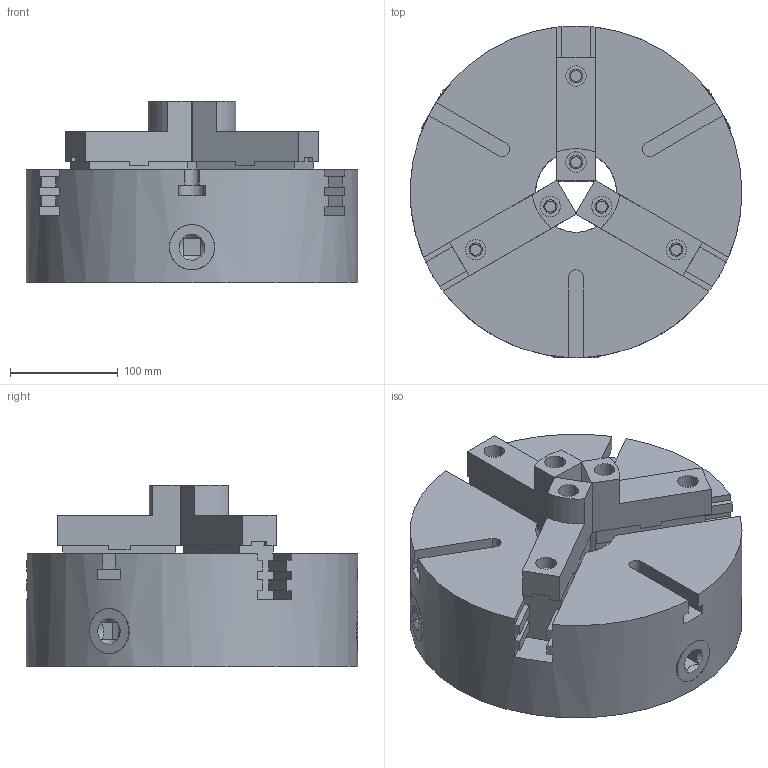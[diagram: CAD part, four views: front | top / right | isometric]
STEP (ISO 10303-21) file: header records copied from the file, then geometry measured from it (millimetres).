
FILE_DESCRIPTION(/* description */ (''),/* implementation_level */ '2;1');
FILE_NAME(/* name */ 'databuffer_step.stp',/* time_stamp */ '2012-05-10T15:24:30+02:00',/* author */ (''),/* organization */ (''),/* preprocessor_version */ 'ST-DEVELOPER v11',/* originating_system */ 'SIEMENS PLM Software NX 7.5',/* authorization */ '');
FILE_SCHEMA(('AP242_MANAGED_MODEL_BASED_3D_ENGINEERING_MIM'));
Length unit declared in the file: millimetre
Products named in the file (6): chuck_jaw; chuck_jaw_base; chuck_wrench_head; chuck_body; jaw_assembly; chuck_3_jaw_stp
Assembly tree (9 placements, depth 3):
  chuck_3_jaw_stp
    chuck_body
    chuck_wrench_head  x3
    jaw_assembly  x3
      chuck_jaw_base
      chuck_jaw
Bounding box: 308 x 308 x 168.5 mm (x, y, z)
Volume: 7383864.6 mm3; surface area: 533329.3 mm2
Topology: 10 solids, 10 shells, 317 faces, 843 edges, 564 vertices
Faces by surface type: plane 278, cylinder 36, cone 3
Full cylindrical faces by diameter (mm): 10.106 x6, 12.5 x6, 19 x6, 42 x6, 75 x1, 215 x1, 308 x1
Entity records: 5638 total; most frequent: CARTESIAN_POINT 1068, DIRECTION 932, ORIENTED_EDGE 890, EDGE_CURVE 445, LINE 324, VECTOR 324, VERTEX_POINT 304, AXIS2_PLACEMENT_3D 304
